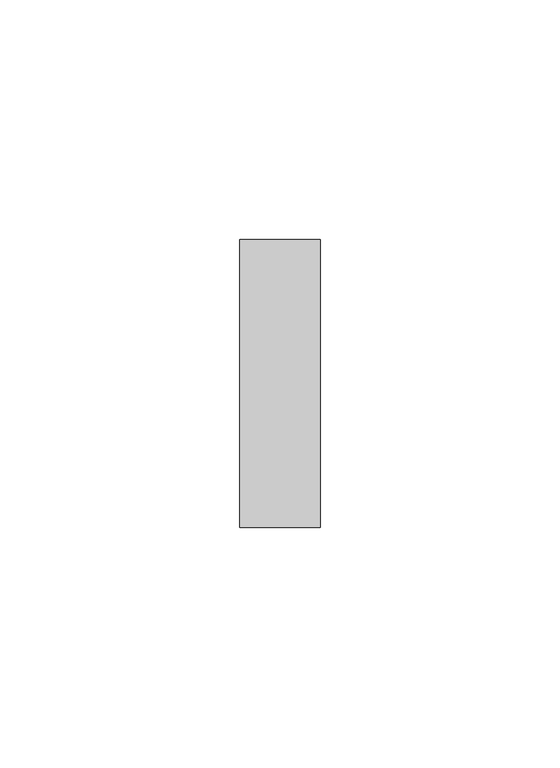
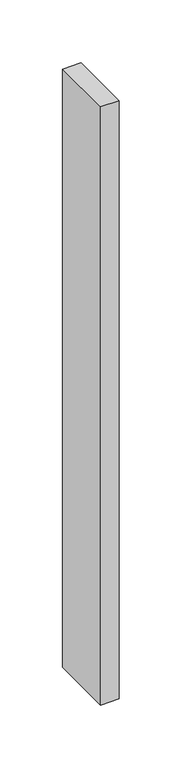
"""IFC4 building model written with IfcOpenShell, lengths in millimetres: plate geometry, Системная панель : Алюкобонд серый."""

from ifc_helpers import new_model, si_unit, origin, origin_with_axes, place, context, project, spatial, polyline, outline, extrude, source, transform, mapped, element, save


def plate_c88e3ec8(model_context):
    return source(origin(), model_context, "Body", "SweptSolid", [
        extrude(outline(polyline([(8.3657399, -49.5), (-8.3657399, -49.5), (-8.3657399, 10.5), (8.3657399, 10.5), (8.3657399, -49.5)])), origin_with_axes(), (0.0, 0.0, 1.0), 580.0),
    ])


if __name__ == "__main__":
    model = new_model("IFC4")
    model_context = context("Model", 3, world=origin())
    ifc_project = project(units=[si_unit("LENGTHUNIT", "METRE", prefix="MILLI")], contexts=[model_context])
    site = spatial("IfcSite", under=ifc_project)
    building = spatial("IfcBuilding", under=site)
    placement = place(None, origin())
    plate_shape = plate_c88e3ec8(model_context)
    element("IfcPlate", 1, ObjectType="Системная панель : Алюкобонд серый", at=placement, inside=building, context=model_context, shape_type="MappedRepresentation", body=[
        mapped(plate_shape, transform((0.0, 0.0, 0.0), x_axis=(1.0, 0.0, 0.0), y_axis=(0.0, 1.0, 0.0), z_axis=(0.0, 0.0, 1.0))),
    ])
    save(model, "model.ifc")
